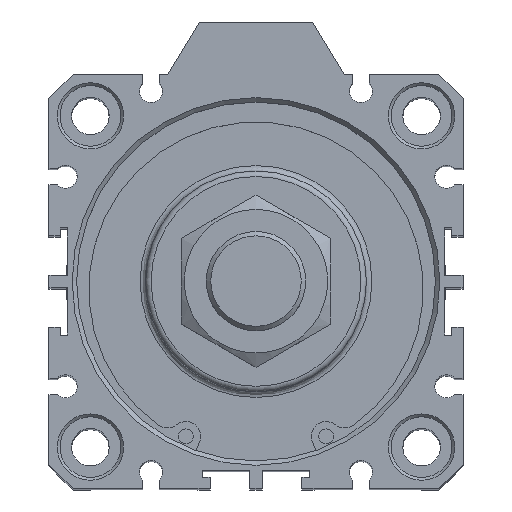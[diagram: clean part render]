
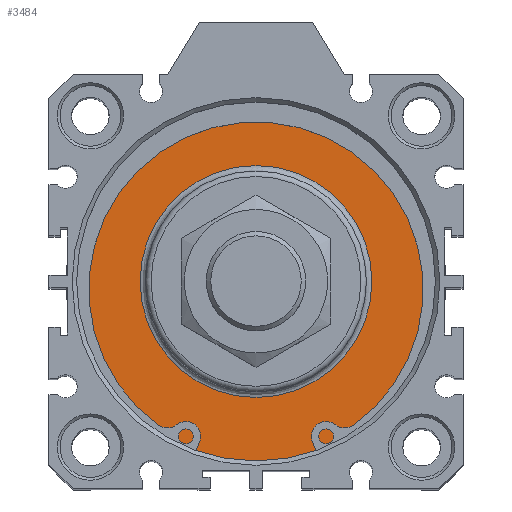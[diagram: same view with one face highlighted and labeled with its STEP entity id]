
A CAD part, top view. The second image highlights one B-rep face of the part: STEP entity #3484.
In plain terms, the highlighted planar face has unit normal (0, 0, 1).
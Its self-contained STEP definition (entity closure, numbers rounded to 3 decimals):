
#3433=CARTESIAN_POINT('',(2.99,22.555,152.3));
#3434=VERTEX_POINT('',#3433);
#3435=CARTESIAN_POINT('',(2.99,1.555,152.3));
#3436=DIRECTION('',(0.0,0.0,1.0));
#3437=DIRECTION('',(0.0,-1.0,0.0));
#3438=AXIS2_PLACEMENT_3D('',#3435,#3436,#3437);
#3439=CIRCLE('',#3438,21.);
#3440=EDGE_CURVE('',#3434,#3434,#3439,.T.);
#3465=CARTESIAN_POINT('',(2.99,27.805,152.3));
#3466=DIRECTION('',(0.0,0.0,1.0));
#3467=DIRECTION('',(1.0,0.0,0.0));
#3468=AXIS2_PLACEMENT_3D('',#3465,#3466,#3467);
#3469=PLANE('',#3468);
#3470=CARTESIAN_POINT('',(2.99,34.055,152.3));
#3471=VERTEX_POINT('',#3470);
#3472=CARTESIAN_POINT('',(2.99,1.555,152.3));
#3473=DIRECTION('',(0.0,0.0,-1.0));
#3474=DIRECTION('',(0.0,1.0,0.0));
#3475=AXIS2_PLACEMENT_3D('',#3472,#3473,#3474);
#3476=CIRCLE('',#3475,32.5);
#3477=EDGE_CURVE('',#3471,#3471,#3476,.T.);
#3478=ORIENTED_EDGE('',*,*,#3477,.F.);
#3479=EDGE_LOOP('',(#3478));
#3480=FACE_OUTER_BOUND('',#3479,.T.);
#3481=ORIENTED_EDGE('',*,*,#3440,.F.);
#3482=EDGE_LOOP('',(#3481));
#3483=FACE_BOUND('',#3482,.T.);
#3484=ADVANCED_FACE('',(#3480,#3483),#3469,.T.);
